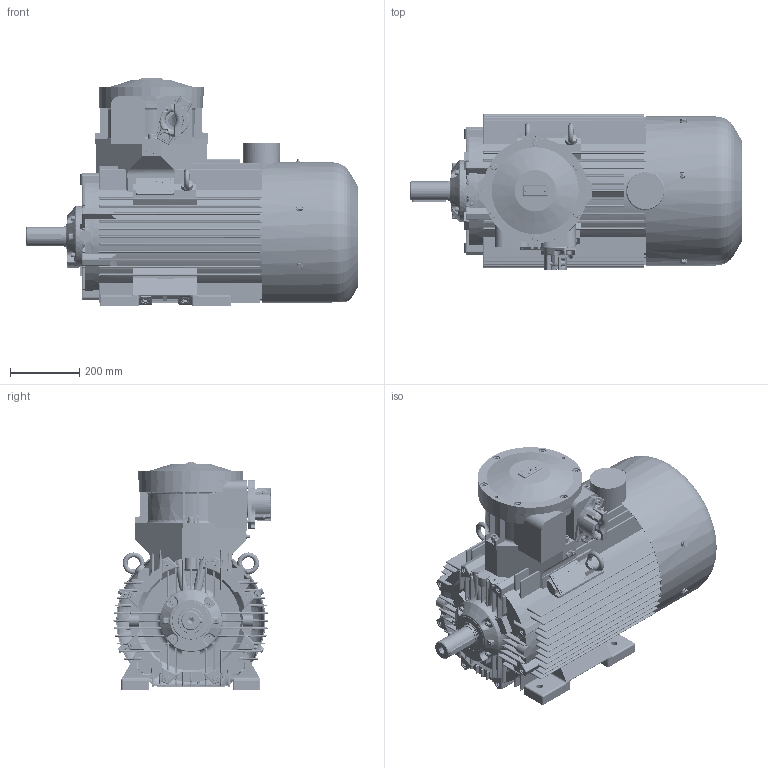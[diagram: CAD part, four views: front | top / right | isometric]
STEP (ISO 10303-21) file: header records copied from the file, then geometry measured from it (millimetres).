
FILE_DESCRIPTION(/* description */ ('Unknown'),/* implementation_level */ '2;1');
FILE_NAME(/* name */ 'cSTe200L(2-8)-(IE2-3) - wykonwnie OUTSIDE !',/* time_stamp */ '2021-12-22T10:34:36+01:00',/* author */ ('Unknown'),/* organization */ ('Unknown'),/* preprocessor_version */ 'ST-DEVELOPER v16.7',/* originating_system */ 'DEX',/* authorisation */ $);
FILE_SCHEMA (('AUTOMOTIVE_DESIGN { 1 0 10303 214 3 1 1 }','AUTOMOTIVE_DESIGN {1 0 10303 214 3 1 1}'));
Length unit declared in the file: millimetre
Products named in the file (1): cSTe200L(2-8)-(IE2-3) - wykonwnie OUTSIDE
Bounding box: 960.63 x 454.5 x 658.45 mm (x, y, z)
Volume: 24526365.9 mm3; surface area: 6289106.5 mm2
Topology: 155 solids, 157 shells, 7950 faces, 20879 edges, 13468 vertices
Faces by surface type: plane 4799, cylinder 1747, cone 514, torus 424, bspline 352, sphere 114
Full cylindrical faces by diameter (mm): 1.2 x6, 1.6 x2, 2.5 x6, 3 x6, 3.1 x4, 3.2 x2, 3.4 x6, 4.773 x2, 4.917 x4, 5 x3, 5.35 x2, 6 x6, 6.2 x3, 6.4 x2, 6.466 x4, 6.5 x2, 6.647 x4, 8 x14, 8.16 x24, 8.376 x18, 8.5 x4, 8.8 x1, 8.917 x3, 9 x4, 9.853 x11, 10 x53, 10.106 x12, 10.5 x4, 11 x24, 12 x26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
Entity records: 272489 total; most frequent: CARTESIAN_POINT 68410, ORIENTED_EDGE 39034, DIRECTION 37557, EDGE_CURVE 19517, VERTEX_POINT 13135, LINE 12695, VECTOR 12695, AXIS2_PLACEMENT_3D 12431
